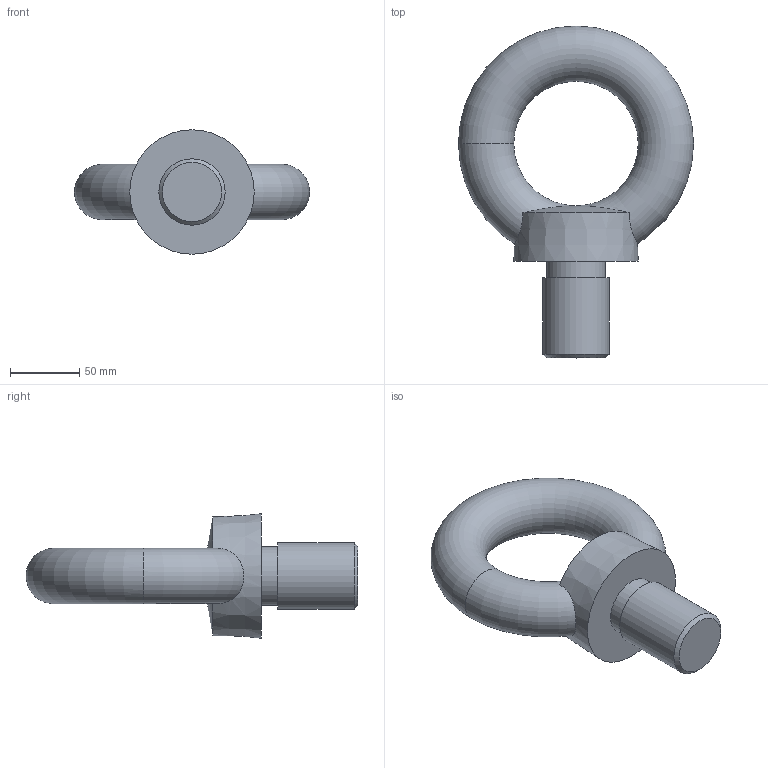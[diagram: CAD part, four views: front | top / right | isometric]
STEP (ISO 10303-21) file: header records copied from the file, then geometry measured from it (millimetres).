
FILE_DESCRIPTION(/* description */ (''),/* implementation_level */ '2;1');
FILE_NAME(/* name */ 'C:\Users\D\Documents\Inventor\各種小物\JIS\アイボルト\M48.stp',/* time_stamp */ '2022-04-27T11:43:18+09:00',/* author */ ('D'),/* organization */ (''),/* preprocessor_version */ 'ST-DEVELOPER v18',/* originating_system */ 'Autodesk Inventor 2020',/* authorisation */ '');
FILE_SCHEMA (('AUTOMOTIVE_DESIGN { 1 0 10303 214 3 1 1 }'));
Length unit declared in the file: millimetre
Products named in the file (1): M8
Bounding box: 170 x 240 x 90 mm (x, y, z)
Volume: 767389.4 mm3; surface area: 72322.5 mm2
Topology: 1 solids, 1 shells, 11 faces, 27 edges, 18 vertices
Faces by surface type: plane 3, cone 2, cylinder 2, sphere 2, torus 2
Full cylindrical faces by diameter (mm): 42.59 x1, 48 x1
Entity records: 461 total; most frequent: CARTESIAN_POINT 150, DIRECTION 60, ORIENTED_EDGE 54, AXIS2_PLACEMENT_3D 28, EDGE_CURVE 27, VERTEX_POINT 18, CIRCLE 16, EDGE_LOOP 13
